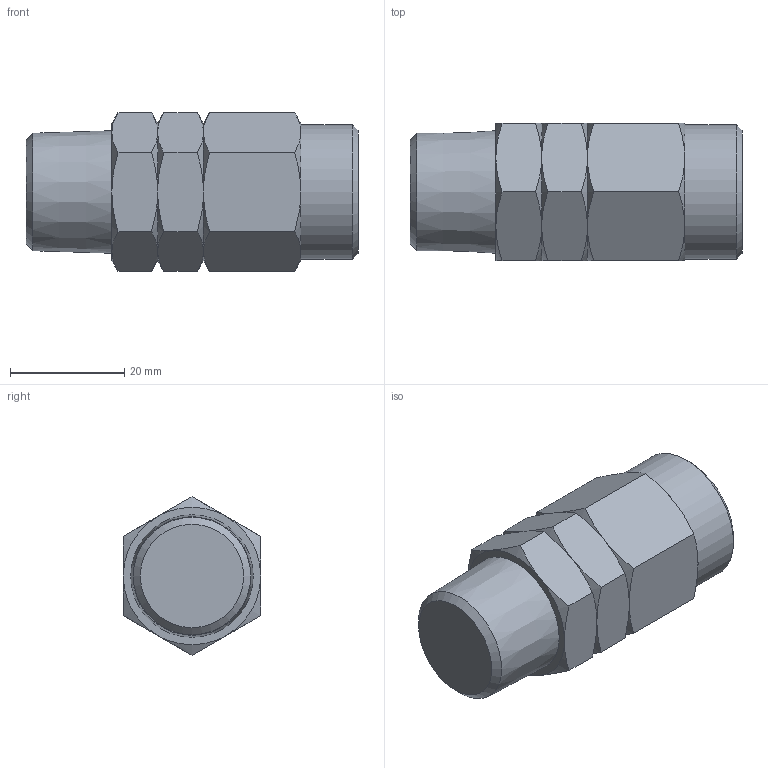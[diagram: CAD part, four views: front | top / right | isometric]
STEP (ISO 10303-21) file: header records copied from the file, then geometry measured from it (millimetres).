
FILE_DESCRIPTION(/* description */ (''),/* implementation_level */ '2;1');
FILE_NAME(/* name */ 'E:\2013年度版　3D-DATA\【21】 HOSE FITTING\[04] UNUVERSAL NIPPLE\[06] H11-4MU.stp',/* time_stamp */ '2013-08-05T15:13:30+09:00',/* author */ ('takahashi-pc2'),/* organization */ (''),/* preprocessor_version */ 'ST-DEVELOPER v15.2',/* originating_system */ 'Autodesk Inventor 2014',/* authorisation */ '');
FILE_SCHEMA (('AUTOMOTIVE_DESIGN { 1 0 10303 214 3 1 1 }'));
Length unit declared in the file: millimetre
Products named in the file (1): [06] H11-4MU
Bounding box: 58 x 24 x 27.71 mm (x, y, z)
Volume: 22771.1 mm3; surface area: 6144.7 mm2
Topology: 1 solids, 1 shells, 64 faces, 127 edges, 68 vertices
Faces by surface type: cone 39, plane 23, cylinder 2
Full cylindrical faces by diameter (mm): 16 x1, 23.5 x1
Entity records: 1507 total; most frequent: CARTESIAN_POINT 399, ORIENTED_EDGE 244, DIRECTION 212, EDGE_CURVE 122, AXIS2_PLACEMENT_3D 97, EDGE_LOOP 72, VERTEX_POINT 68, ADVANCED_FACE 64
